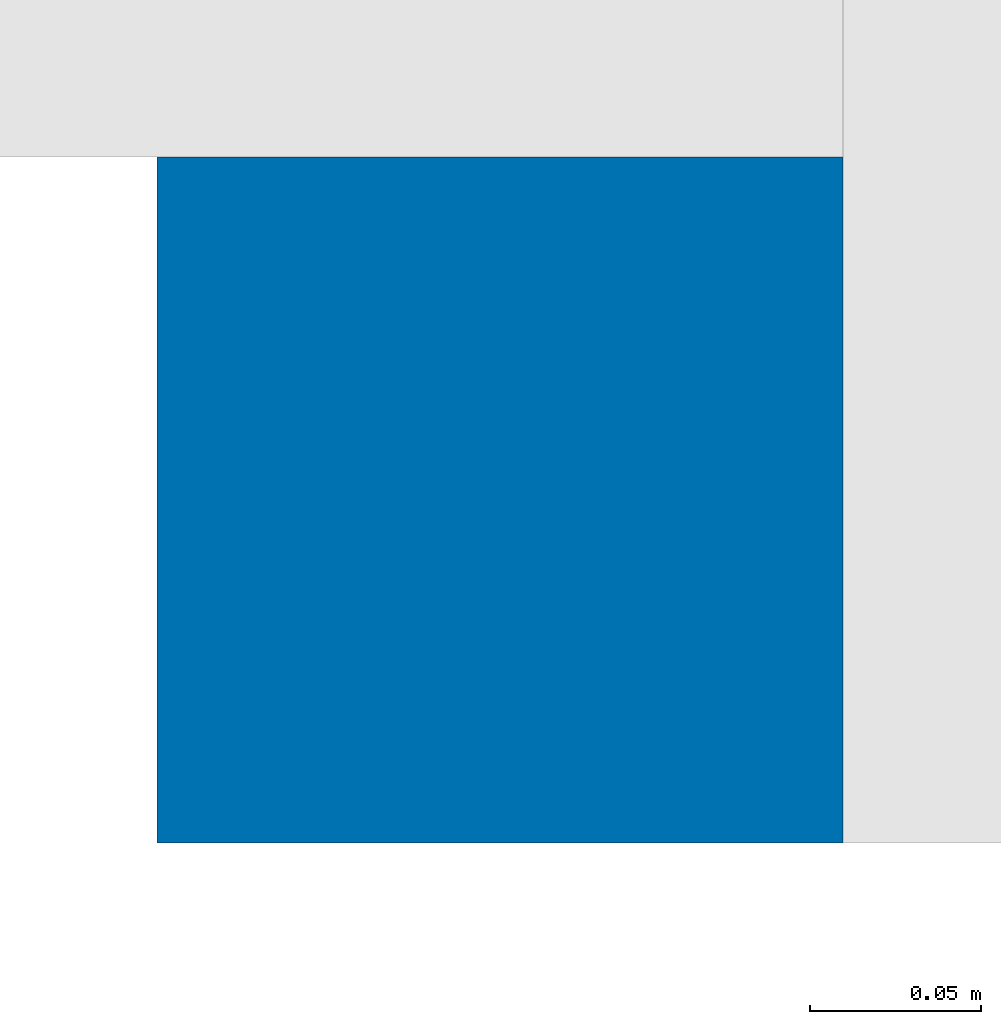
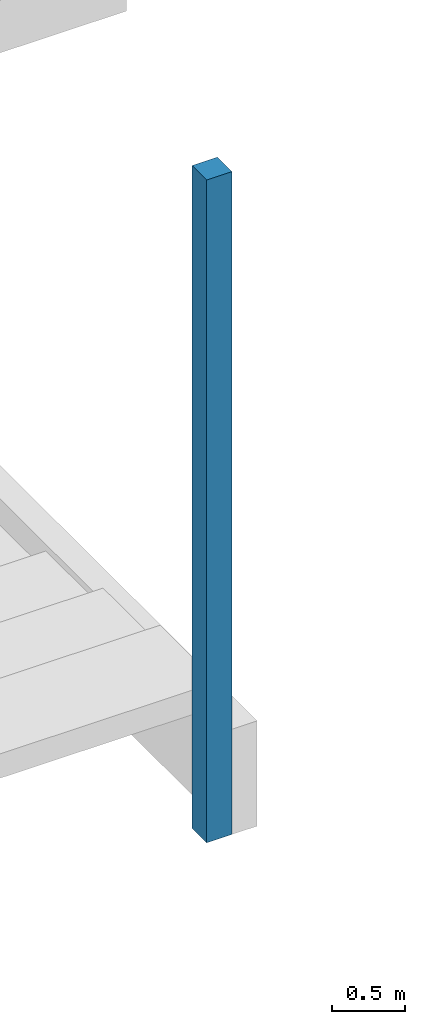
# One storey, part 2 of 65: 1 column.
"""IFC2X3 building model written with IfcOpenShell, lengths in millimetres."""

from ifc_helpers import new_model, entity, si_unit, converted_unit, derived_unit, money_unit, direction, frame, origin_with_axes, origin_2d_with_axis, place, context, subcontext, project, spatial, rectangle, extrude, material, type_object, element, save


model = new_model("IFC2X3")

# Units and contexts
model_context = context("Model", 3, precision=0.01, world=origin_with_axes(), true_north=direction((0.0, 1.0)))
body_context = subcontext(model_context, "Body", "Model", "MODEL_VIEW")
ifc_project = project(units=[si_unit("LENGTHUNIT", "METRE", prefix="MILLI"), si_unit("AREAUNIT", "SQUARE_METRE"), si_unit("VOLUMEUNIT", "CUBIC_METRE"), converted_unit("PLANEANGLEUNIT", "DEGREE", entity("IfcPlaneAngleMeasure", 0.0174532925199), si_unit("PLANEANGLEUNIT", "RADIAN"), dimensions=[0, 0, 0, 0, 0, 0, 0]), si_unit("SOLIDANGLEUNIT", "STERADIAN"), money_unit("EUR"), converted_unit("TIMEUNIT", "Year", entity("IfcTimeMeasure", 31556926.0), si_unit("TIMEUNIT", "SECOND"), dimensions=[0, 0, 1, 0, 0, 0, 0]), si_unit("MASSUNIT", "GRAM", prefix="KILO"), si_unit("THERMODYNAMICTEMPERATUREUNIT", "DEGREE_CELSIUS"), si_unit("LUMINOUSINTENSITYUNIT", "LUMEN"), si_unit("ENERGYUNIT", "JOULE", prefix="MEGA"), derived_unit("THERMALCONDUCTANCEUNIT", [(si_unit("POWERUNIT", "WATT"), 1), (si_unit("LENGTHUNIT", "METRE"), -1), (si_unit("THERMODYNAMICTEMPERATUREUNIT", "KELVIN"), -1)]), derived_unit("SPECIFICHEATCAPACITYUNIT", [(si_unit("ENERGYUNIT", "JOULE"), 1), (si_unit("MASSUNIT", "GRAM", prefix="KILO"), -1), (si_unit("THERMODYNAMICTEMPERATUREUNIT", "KELVIN"), -1)]), derived_unit("MASSDENSITYUNIT", [(si_unit("MASSUNIT", "GRAM", prefix="KILO"), 1), (si_unit("VOLUMEUNIT", "CUBIC_METRE"), -1)])], contexts=[model_context])

# Site, building, storey
site_placement = place(None, origin_with_axes())
site = spatial("IfcSite", under=ifc_project, at=site_placement, Name="Puškini 31, Narva", CompositionType="ELEMENT")
building_placement = place(site_placement, origin_with_axes())
building = spatial("IfcBuilding", under=site, at=building_placement, Name="Narva Riigigümnaasium", CompositionType="ELEMENT")
storey_placement = place(building_placement, frame((0.0, 0.0, -1320.0), z_axis=(0.0, 0.0, 1.0), x_axis=(1.0, 0.0, 0.0)))
storey = spatial("IfcBuildingStorey", under=building, at=storey_placement, Name="1.korrus -1.32", CompositionType="ELEMENT", Elevation=-1320.0)

# Column
ifc_material = material(Name="ET-06_Teras - Konstruktsioon")
column_type = type_object("IfcColumnType", Name="ET-06_Teras - Konstruktsioon 200 x 200", PredefinedType="COLUMN")
column_placement = place(storey_placement, frame((32700.0000014, 159100.0, 0.0), z_axis=(0.0, 0.0, 1.0), x_axis=(0.0, 1.0, 0.0)))
element("IfcColumn", 1, at=column_placement, inside=storey, type_object=column_type, material=ifc_material, Name="Post", ObjectType="COLUMN", context=body_context, shape_type="SweptSolid", body=[
    extrude(rectangle(XDim=200.0, YDim=200.0, at=origin_2d_with_axis()), origin_with_axes(), (0.0, 0.0, 1.0), 5544.69278524),
])

save(model, "model.ifc")
